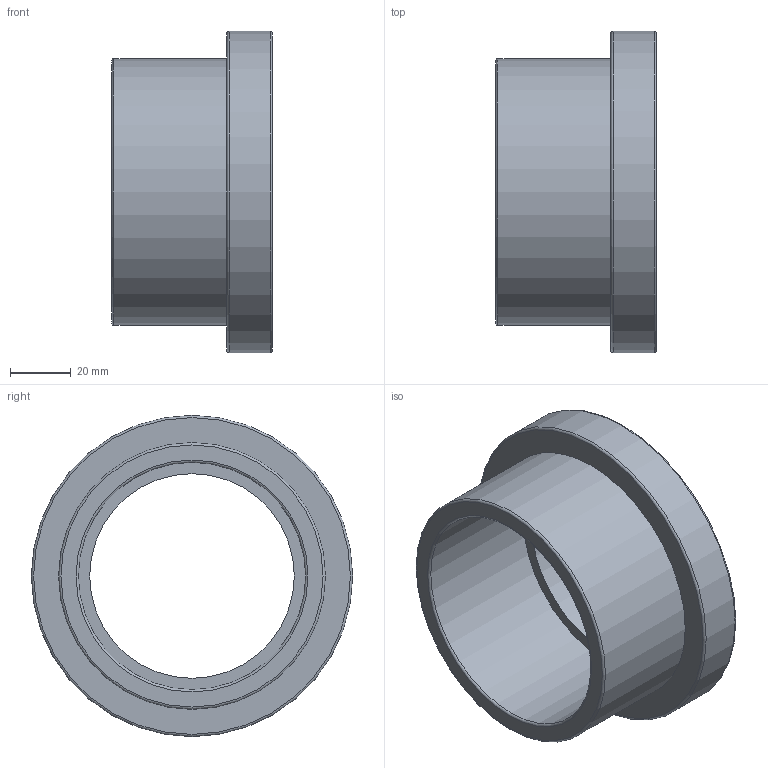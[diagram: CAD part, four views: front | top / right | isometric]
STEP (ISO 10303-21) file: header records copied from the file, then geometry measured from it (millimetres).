
FILE_DESCRIPTION(/* description */ ('PLASSON FLANGE AD.+O-RING-CE 75'),/* implementation_level */ '2;1');
FILE_NAME(/* name */ 'C:\Dropbox\KIMPROJECTS-Inventor\99-16-3568-Processing\PVC Catalog 2017\055000\055000075.ipt.stp',/* time_stamp */ '2017-12-07T16:04:39+02:00',/* author */ ('KIM'),/* organization */ (''),/* preprocessor_version */ 'ST-DEVELOPER v15.6',/* originating_system */ 'Autodesk Inventor 2015',/* authorisation */ '');
FILE_SCHEMA (('AUTOMOTIVE_DESIGN { 1 0 10303 214 3 1 1 }'));
Length unit declared in the file: millimetre
Products named in the file (1): 055000075
Bounding box: 53 x 106 x 106 mm (x, y, z)
Volume: 129649.3 mm3; surface area: 39923.1 mm2
Topology: 1 solids, 1 shells, 21 faces, 36 edges, 21 vertices
Faces by surface type: torus 9, plane 6, cylinder 6
Full cylindrical faces by diameter (mm): 67.5 x1, 75 x1, 80.975 x1, 88 x1, 92.525 x1, 106 x1
Entity records: 452 total; most frequent: DIRECTION 86, CARTESIAN_POINT 64, AXIS2_PLACEMENT_3D 43, EDGE_LOOP 42, ORIENTED_EDGE 42, FACE_BOUND 21, FACE_OUTER_BOUND 21, CIRCLE 21
